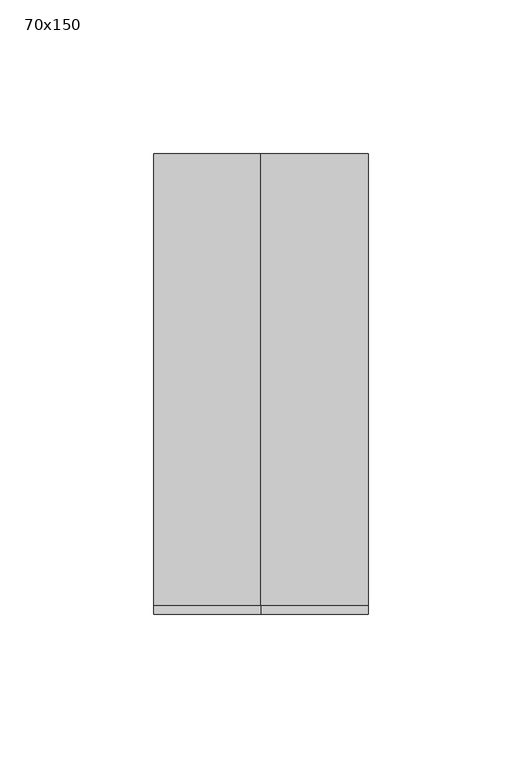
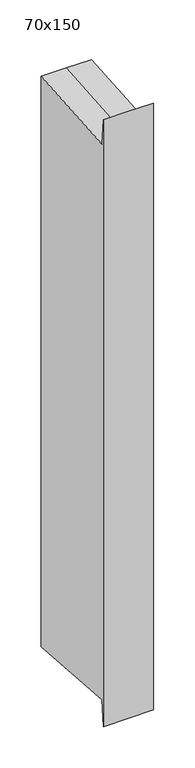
"""IFC4 building model written with IfcOpenShell, lengths in millimetres: member geometry, 長方形のマリオン : 70x150."""

from ifc_helpers import new_model, si_unit, origin, place, context, project, spatial, faceted_brep, source, transform, mapped, element, save


def member_70x150_beb285de(model_context):
    return source(origin(), model_context, "Body", "Brep", [
        faceted_brep([(-35.0, 75.0, 5.3883632), (0.0, 75.0, 5.3883632), (35.0, 75.0, 5.3883632), (35.0, 75.0, -835.3883632), (0.0, 75.0, -835.3883632), (-35.0, 75.0, -835.3883632), (-35.0, -75.0, 32.262788), (-35.0, -72.2491374, -5.374028), (-35.0, -72.2491374, -824.625972), (-35.0, -75.0, -862.262788), (35.0, -75.0, 32.262788), (0.0, -75.0, 32.262788), (0.0, -75.0, -862.262788), (35.0, -75.0, -862.262788), (35.0, -72.2491374, -5.374028), (35.0, -72.2491374, -824.625972), (0.0, -72.2491374, -5.374028), (0.0, -72.2491374, -824.625972)], [[[0, 1, 2, 3, 4, 5]], [[6, 7, 0, 5, 8, 9]], [[10, 11, 6, 9, 12, 13]], [[2, 14, 10, 13, 15, 3]], [[2, 1, 16, 14]], [[1, 0, 7, 16]], [[7, 6, 11, 16]], [[11, 10, 14, 16]], [[3, 15, 17, 4]], [[15, 13, 12, 17]], [[12, 9, 8, 17]], [[8, 5, 4, 17]]]),
    ])


if __name__ == "__main__":
    model = new_model("IFC4")
    model_context = context("Model", 3, world=origin())
    ifc_project = project(units=[si_unit("LENGTHUNIT", "METRE", prefix="MILLI")], contexts=[model_context])
    site = spatial("IfcSite", under=ifc_project)
    building = spatial("IfcBuilding", under=site)
    placement = place(None, origin())
    member_70x150_shape = member_70x150_beb285de(model_context)
    element("IfcMember", 1, ObjectType="長方形のマリオン : 70x150", at=placement, inside=building, context=model_context, shape_type="MappedRepresentation", body=[
        mapped(member_70x150_shape, transform((0.0, 0.0, 0.0), x_axis=(1.0, 0.0, 0.0), y_axis=(0.0, 1.0, 0.0), z_axis=(0.0, 0.0, 1.0))),
    ])
    save(model, "model.ifc")
